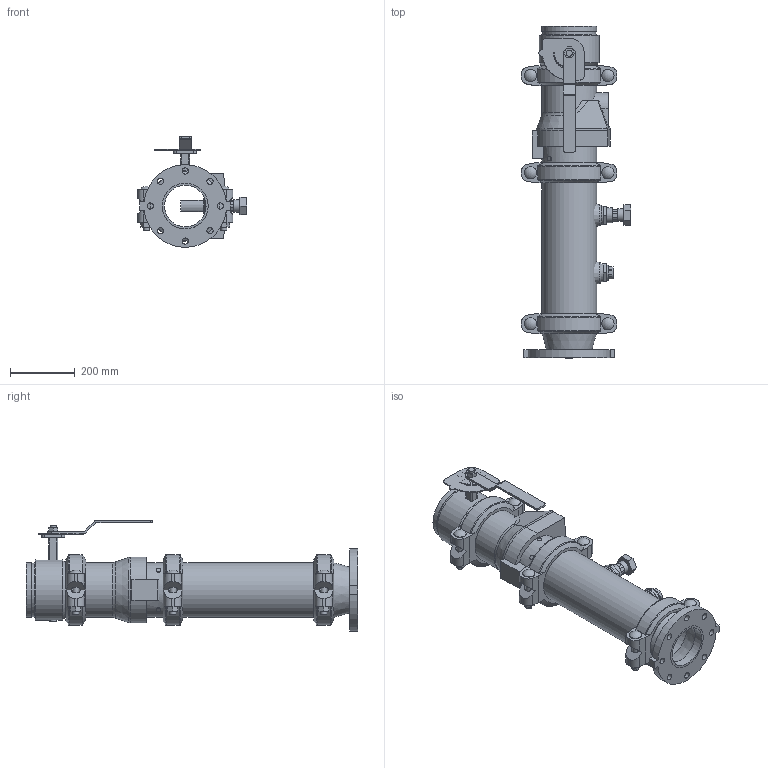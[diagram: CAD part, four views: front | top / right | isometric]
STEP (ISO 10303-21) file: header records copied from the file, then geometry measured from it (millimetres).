
FILE_DESCRIPTION(/* description */ ('VIC DVI PUMP DROP VERT S/380 (OGSxFLG) (S/924-1.25)','CAx-IF Rec.Pracs.---Representation and Presentation of Product Manufacturing Information (PMI)---4.0---2014-10-13'),/* implementation_level */ '2;1');
FILE_NAME(/* name */ 'C:\Users\Public\Documents\Victaulic.Temp\A765\Victaulic_IPS_Vertical DVI_CL 150_Series 380 (OGSxFLG)_924 (1.25)_06.0x05.0 (150x125).stp',/* time_stamp */ '2022-07-25T11:12:49+02:00',/* author */ ('Vjadhav'),/* organization */ ('Victaulic'),/* preprocessor_version */ 'ST-DEVELOPER v18',/* originating_system */ 'Autodesk Inventor 2020',/* authorisation */ '');
FILE_SCHEMA (('AP242_MANAGED_MODEL_BASED_3D_ENGINEERING_MIM_LF { 1 0 10303 442 1 1 4 }'));
Length unit declared in the file: inch
Products named in the file (9): 380_924 (1.25)-06.0x05.0; 741-05.0; 050-06.0x05.0; Pipe-06.0x04.0; 177N-06.0; 761-06.0; 779-06.0; 923-04.0x0.75; 924-04.0x01.25
Assembly tree (10 placements, depth 2):
  380_924 (1.25)-06.0x05.0
    741-05.0
    050-06.0x05.0
    177N-06.0  x3
    Pipe-06.0x04.0
    761-06.0
    779-06.0
    923-04.0x0.75
    924-04.0x01.25
Bounding box: 335.83 x 1022.35 x 339.38 mm (x, y, z)
Volume: 11207644.4 mm3; surface area: 1866565.2 mm2
Topology: 10 solids, 12 shells, 605 faces, 1573 edges, 1053 vertices
Faces by surface type: plane 356, cylinder 203, cone 20, torus 18, sphere 6, bspline 2
Full cylindrical faces by diameter (mm): 4.826 x10, 8.636 x4, 13.716 x4, 19.05 x16, 21.336 x1, 22.86 x1, 26.67 x2, 37.694 x6, 38.608 x1, 42.164 x1, 45.974 x4, 48.514 x1, 55.118 x1, 55.626 x2, 128.194 x1, 137.033 x1, 141.3 x3, 154.051 x4, 155.575 x3, 163.957 x7, 168.275 x19, 185.42 x1
Entity records: 14563 total; most frequent: CARTESIAN_POINT 2873, DIRECTION 2418, ORIENTED_EDGE 2174, EDGE_CURVE 1087, AXIS2_PLACEMENT_3D 920, VERTEX_POINT 733, LINE 578, VECTOR 578
